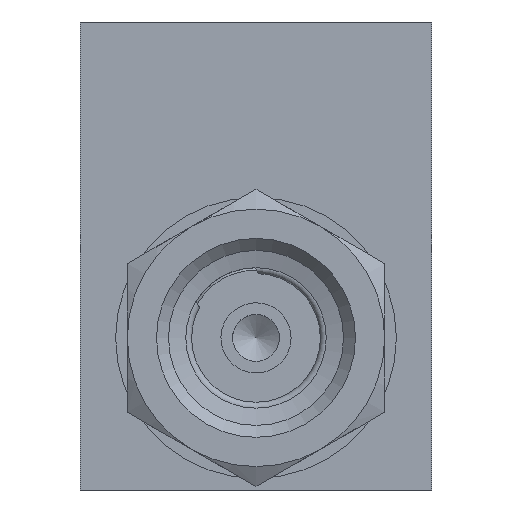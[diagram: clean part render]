
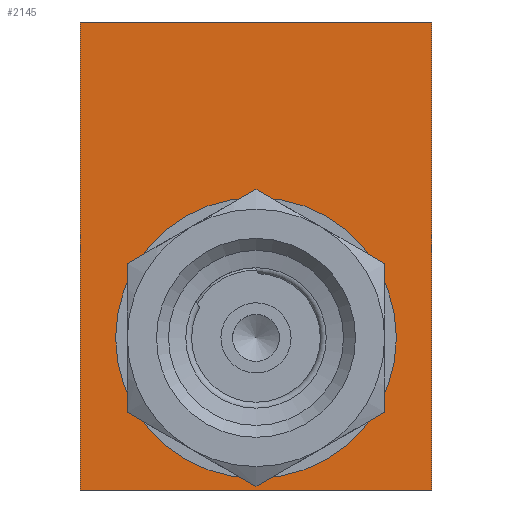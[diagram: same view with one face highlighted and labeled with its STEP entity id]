
A CAD part, left-side view. The second image highlights one B-rep face of the part: STEP entity #2145.
In plain terms, the highlighted planar face has unit normal (-1, 0, 0).
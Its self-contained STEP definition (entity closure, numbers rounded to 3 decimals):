
#135=FACE_BOUND('',#438,.T.);
#165=PLANE('',#2458);
#312=FACE_OUTER_BOUND('',#437,.T.);
#437=EDGE_LOOP('',(#1861,#1862,#1863,#1864));
#438=EDGE_LOOP('',(#1865,#1866));
#512=LINE('',#4563,#585);
#517=LINE('',#4573,#590);
#518=LINE('',#4576,#591);
#519=LINE('',#4577,#592);
#585=VECTOR('',#3037,10.);
#590=VECTOR('',#3046,10.);
#591=VECTOR('',#3049,10.);
#592=VECTOR('',#3050,10.);
#741=CIRCLE('',#2441,12.);
#742=CIRCLE('',#2442,12.);
#964=VERTEX_POINT('',#4526);
#965=VERTEX_POINT('',#4527);
#975=VERTEX_POINT('',#4556);
#978=VERTEX_POINT('',#4561);
#981=VERTEX_POINT('',#4571);
#982=VERTEX_POINT('',#4575);
#1282=EDGE_CURVE('',#964,#965,#741,.T.);
#1283=EDGE_CURVE('',#965,#964,#742,.T.);
#1300=EDGE_CURVE('',#978,#975,#512,.T.);
#1305=EDGE_CURVE('',#975,#981,#517,.T.);
#1306=EDGE_CURVE('',#982,#981,#518,.T.);
#1307=EDGE_CURVE('',#978,#982,#519,.T.);
#1861=ORIENTED_EDGE('',*,*,#1306,.T.);
#1862=ORIENTED_EDGE('',*,*,#1305,.F.);
#1863=ORIENTED_EDGE('',*,*,#1300,.F.);
#1864=ORIENTED_EDGE('',*,*,#1307,.T.);
#1865=ORIENTED_EDGE('',*,*,#1282,.T.);
#1866=ORIENTED_EDGE('',*,*,#1283,.T.);
#2145=ADVANCED_FACE('',(#312,#135),#165,.T.);
#2441=AXIS2_PLACEMENT_3D('',#4528,#3000,#3001);
#2442=AXIS2_PLACEMENT_3D('',#4529,#3002,#3003);
#2458=AXIS2_PLACEMENT_3D('',#4574,#3047,#3048);
#3000=DIRECTION('center_axis',(1.,0.,0.));
#3001=DIRECTION('ref_axis',(0.,0.,1.));
#3002=DIRECTION('center_axis',(1.,0.,0.));
#3003=DIRECTION('ref_axis',(0.,0.,1.));
#3037=DIRECTION('',(0.,1.,0.));
#3046=DIRECTION('',(0.,0.,1.));
#3047=DIRECTION('center_axis',(-1.,0.,0.));
#3048=DIRECTION('ref_axis',(0.,0.,1.));
#3049=DIRECTION('',(0.,1.,0.));
#3050=DIRECTION('',(0.,0.,1.));
#4526=CARTESIAN_POINT('',(-123.915,-173.325,45.446));
#4527=CARTESIAN_POINT('',(-123.915,-173.325,21.446));
#4528=CARTESIAN_POINT('Origin',(-123.915,-173.325,33.446));
#4529=CARTESIAN_POINT('Origin',(-123.915,-173.325,33.446));
#4556=CARTESIAN_POINT('',(-123.915,-158.325,20.446));
#4561=CARTESIAN_POINT('',(-123.915,-188.325,20.446));
#4563=CARTESIAN_POINT('',(-123.915,-188.325,20.446));
#4571=CARTESIAN_POINT('',(-123.915,-158.325,60.446));
#4573=CARTESIAN_POINT('',(-123.915,-158.325,20.446));
#4574=CARTESIAN_POINT('Origin',(-123.915,-188.325,20.446));
#4575=CARTESIAN_POINT('',(-123.915,-188.325,60.446));
#4576=CARTESIAN_POINT('',(-123.915,-188.325,60.446));
#4577=CARTESIAN_POINT('',(-123.915,-188.325,20.446));
